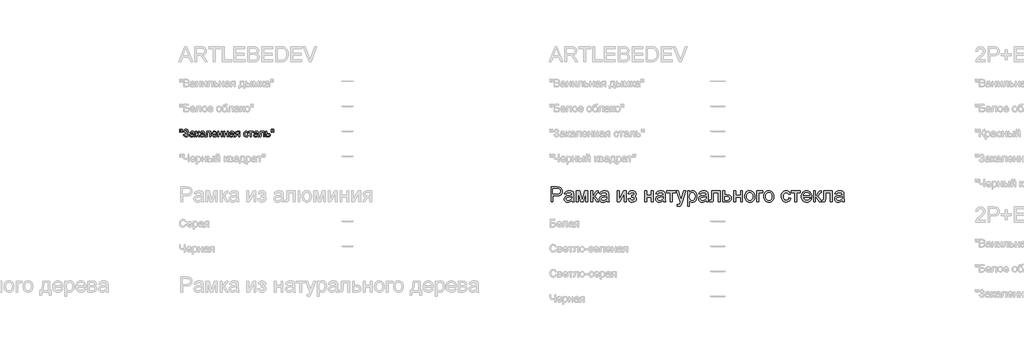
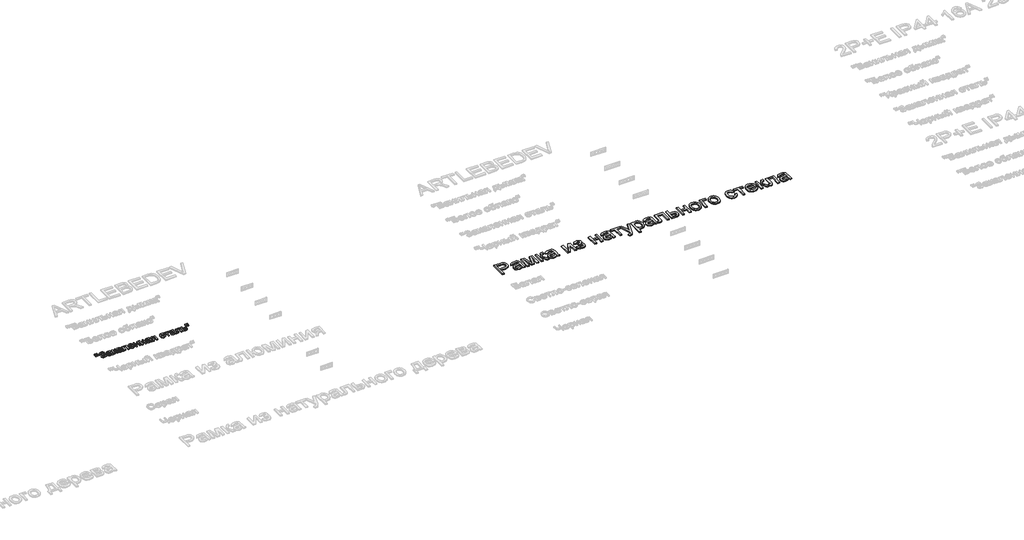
# One storey, part 127 of 168: 2 proxies.
"""IFC4 building model written with IfcOpenShell, lengths in millimetres."""

from ifc_helpers import new_model, si_unit, origin, origin_with_axes, place, context, project, spatial, polyline, outline, extrude, element, save

model = new_model("IFC4")

# Units and contexts
model_context = context("Model", 3, world=origin())
ifc_project = project(units=[si_unit("LENGTHUNIT", "METRE", prefix="MILLI")], contexts=[model_context])

# Site, building, storey
site = spatial("IfcSite", under=ifc_project)
building = spatial("IfcBuilding", under=site)
storey = spatial("IfcBuildingStorey", under=building, Name="Этаж 01", Elevation=0.0)

# Proxies
placement = place(None, origin())
element("IfcBuildingElementProxy", 1, Name="300 мм Arial 2", ObjectType="300 мм Arial 2", at=placement, inside=storey, context=model_context, shape_type="SweptSolid", body=[
    extrude(outline(polyline([(55099.0945017, -8848.4056816), (55099.0945017, -8547.0367511), (55210.7834754, -8547.0367511), (55255.8122316, -8549.9062307), (55275.8893915, -8555.2681108), (55292.4164901, -8563.9961111), (55305.7246213, -8576.4857048), (55316.1448788, -8593.1323651), (55322.8771193, -8612.7680666), (55325.1211995, -8634.224784), (55323.6059855, -8652.7246498), (55319.0603436, -8669.7437906), (55311.4842738, -8685.2822064), (55300.877776, -8699.3398971), (55286.3165468, -8710.9925593), (55266.8762826, -8719.3158895), (55242.5569835, -8724.3098875), (55213.3586494, -8725.9745536), (55136.765618, -8725.9745536), (55136.765618, -8848.4056816), (55099.0945017, -8848.4056816)]), holes=[polyline([(55136.765618, -8688.3034373), (55215.5659413, -8688.3034373), (55248.9696265, -8684.8453465), (55271.0425462, -8674.4710742), (55283.3481989, -8657.824414), (55287.4500832, -8635.5491592), (55285.0312591, -8618.6265874), (55277.7747867, -8604.352766), (55266.581977, -8593.6106117), (55252.3541408, -8587.2830414), (55214.6830245, -8584.7078674), (55136.765618, -8584.7078674), (55136.765618, -8688.3034373)])]), origin_with_axes(), (0.0, 0.0, 1.0), 20.0),
    extrude(outline(polyline([(55513.476781, -8820.1523443), (55495.4781544, -8835.584994), (55476.9460989, -8845.6833548), (55457.4575502, -8851.256767), (55436.589444, -8853.1145711), (55405.1079423, -8848.6448049), (55381.8853914, -8835.2355061), (55367.5655847, -8814.8732377), (55362.7923158, -8789.5445623), (55364.5949376, -8773.9279716), (55370.0028029, -8759.7461207), (55378.3445271, -8747.6060149), (55388.9487257, -8738.1146594), (55415.3258647, -8725.7538244), (55447.9202095, -8720.0884417), (55486.4374544, -8714.1287533), (55513.2560518, -8707.1389954), (55513.476781, -8698.7512859), (55510.883213, -8681.9390788), (55503.1025088, -8670.9394071), (55485.7016904, -8662.7724268), (55461.4582669, -8660.0501), (55439.0174652, -8661.8619189), (55423.3456922, -8667.2973753), (55412.6587202, -8677.3497509), (55405.1723216, -8693.0123268), (55367.5012053, -8688.3034373), (55374.0403078, -8667.7020455), (55383.7983777, -8651.5152378), (55397.685923, -8639.1360086), (55416.6134517, -8629.9573528), (55439.7624262, -8624.273576), (55466.3143092, -8622.3789837), (55491.7809404, -8624.0528468), (55511.9684648, -8629.074436), (55527.1895824, -8636.625214), (55537.7569927, -8645.8866432), (55544.7651447, -8657.3369703), (55549.3084874, -8671.4544419), (55551.1478973, -8704.4166687), (55551.1478973, -8751.2848348), (55553.0608837, -8816.7310418), (55560.5656764, -8848.4056816), (55522.8945601, -8848.4056816), (55513.476781, -8820.1523443)]), holes=[polyline([(55513.476781, -8744.8101117), (55452.7026754, -8756.3616064), (55420.2922716, -8762.4684475), (55405.61378, -8772.4012614), (55400.4634321, -8786.895812), (55403.2685323, -8798.0978187), (55411.683833, -8807.2764745), (55425.525393, -8813.4017097), (55444.6092715, -8815.4434548), (55464.8427813, -8813.1901776), (55482.7218462, -8806.4303459), (55497.2163968, -8796.4699409), (55507.2963635, -8784.6149436), (55511.7661297, -8772.4012614), (55513.2560518, -8755.4786896), (55513.476781, -8744.8101117)])]), origin_with_axes(), (0.0, 0.0, 1.0), 20.0),
    extrude(outline(polyline([(55602.9456823, -8627.0878733), (55667.7664898, -8627.0878733), (55717.7248647, -8804.2598421), (55771.5827888, -8627.0878733), (55833.6812696, -8627.0878733), (55833.6812696, -8848.4056816), (55796.0101533, -8848.4056816), (55796.0101533, -8670.2036431), (55741.8579236, -8848.4056816), (55692.4145835, -8848.4056816), (55640.6167986, -8661.6687808), (55640.6167986, -8848.4056816), (55602.9456823, -8848.4056816), (55602.9456823, -8627.0878733)])), origin_with_axes(), (0.0, 0.0, 1.0), 20.0),
    extrude(outline(polyline([(55890.1879441, -8627.0878733), (55927.8590604, -8627.0878733), (55927.8590604, -8721.265664), (55943.1813455, -8719.5734069), (55953.0957653, -8714.4966353), (55961.8697508, -8701.2528835), (55973.7707334, -8675.0596854), (55990.9508226, -8641.0306009), (56006.1075608, -8629.9573528), (56033.6619222, -8627.0878733), (56040.8724093, -8627.0878733), (56040.8724093, -8664.9797188), (56030.7188662, -8664.7589896), (56012.3247665, -8668.7321151), (55999.3753203, -8693.5273616), (55984.1817939, -8720.345959), (55962.8814263, -8733.4793463), (55974.8191971, -8738.7814455), (55986.6466032, -8748.1394438), (56009.9703217, -8779.0231373), (56050.2901884, -8848.4056816), (56007.4687241, -8848.4056816), (55967.9581979, -8780.4946653), (55948.0925701, -8751.7630814), (55938.8035497, -8746.5483542), (55927.8590604, -8744.8101117), (55927.8590604, -8848.4056816), (55890.1879441, -8848.4056816), (55890.1879441, -8627.0878733)])), origin_with_axes(), (0.0, 0.0, 1.0), 20.0),
    extrude(outline(polyline([(56215.1013222, -8820.1523443), (56197.1026956, -8835.584994), (56178.5706401, -8845.6833548), (56159.0820914, -8851.256767), (56138.2139852, -8853.1145711), (56106.7324835, -8848.6448049), (56083.5099326, -8835.2355061), (56069.1901259, -8814.8732377), (56064.416857, -8789.5445623), (56066.2194788, -8773.9279716), (56071.6273441, -8759.7461207), (56079.9690683, -8747.6060149), (56090.5732669, -8738.1146594), (56116.9504059, -8725.7538244), (56149.5447507, -8720.0884417), (56188.0619956, -8714.1287533), (56214.880593, -8707.1389954), (56215.1013222, -8698.7512859), (56212.5077542, -8681.9390788), (56204.72705, -8670.9394071), (56187.3262316, -8662.7724268), (56163.0828081, -8660.0501), (56140.6420064, -8661.8619189), (56124.9702334, -8667.2973753), (56114.2832614, -8677.3497509), (56106.7968628, -8693.0123268), (56069.1257465, -8688.3034373), (56075.664849, -8667.7020455), (56085.4229189, -8651.5152378), (56099.3104642, -8639.1360086), (56118.2379929, -8629.9573528), (56141.3869674, -8624.273576), (56167.9388504, -8622.3789837), (56193.4054816, -8624.0528468), (56213.593006, -8629.074436), (56228.8141236, -8636.625214), (56239.3815339, -8645.8866432), (56246.3896859, -8657.3369703), (56250.9330286, -8671.4544419), (56252.7724385, -8704.4166687), (56252.7724385, -8751.2848348), (56254.6854249, -8816.7310418), (56262.1902176, -8848.4056816), (56224.5191013, -8848.4056816), (56215.1013222, -8820.1523443)]), holes=[polyline([(56215.1013222, -8744.8101117), (56154.3272166, -8756.3616064), (56121.9168128, -8762.4684475), (56107.2383212, -8772.4012614), (56102.0879733, -8786.895812), (56104.8930735, -8798.0978187), (56113.3083742, -8807.2764745), (56127.1499342, -8813.4017097), (56146.2338127, -8815.4434548), (56166.4673225, -8813.1901776), (56184.3463874, -8806.4303459), (56198.840938, -8796.4699409), (56208.9209047, -8784.6149436), (56213.3906709, -8772.4012614), (56214.880593, -8755.4786896), (56215.1013222, -8744.8101117)])]), origin_with_axes(), (0.0, 0.0, 1.0), 20.0),
    extrude(outline(polyline([(56422.2924619, -8627.0878733), (56459.9635782, -8627.0878733), (56459.9635782, -8795.8721327), (56552.5226882, -8627.0878733), (56601.2302644, -8627.0878733), (56601.2302644, -8848.4056816), (56563.5591481, -8848.4056816), (56563.5591481, -8680.6514918), (56471.5886493, -8848.4056816), (56422.2924619, -8848.4056816), (56422.2924619, -8627.0878733)])), origin_with_axes(), (0.0, 0.0, 1.0), 20.0),
    extrude(outline(polyline([(56709.5347237, -8749.5190013), (56709.5347237, -8711.847885), (56739.259589, -8710.376357), (56754.2691744, -8702.5404705), (56759.5666751, -8695.1920276), (56761.3325087, -8686.1697217), (56758.9688668, -8675.4551586), (56751.8779414, -8667.1502225), (56741.0530137, -8661.8251307), (56727.4873651, -8660.0501), (56713.7745637, -8661.8159336), (56702.2874484, -8667.1134343), (56693.0260192, -8675.9426022), (56685.9902761, -8688.3034373), (56643.6102702, -8683.5945477), (56654.8490652, -8656.8127385), (56671.9371838, -8637.6828747), (56694.8746262, -8626.2049565), (56723.6613924, -8622.3789837), (56755.1520911, -8627.041888), (56778.9908444, -8641.0306009), (56794.0004298, -8661.4940369), (56799.003625, -8685.5811105), (56797.2239958, -8697.9419455), (56791.8851084, -8708.9784054), (56782.9869626, -8718.6904901), (56770.5295585, -8727.0781996), (56785.0700944, -8737.5444423), (56795.4351696, -8750.5490709), (56801.6431783, -8766.1288733), (56803.7125145, -8784.320638), (56798.460999, -8812.0497434), (56782.7064526, -8834.0214956), (56757.515733, -8848.3413022), (56723.955698, -8853.1145711), (56691.1314269, -8848.6999872), (56666.0142837, -8835.4562353), (56648.6042683, -8813.3833156), (56638.9013807, -8782.481228), (56681.2813865, -8777.7723385), (56687.6273509, -8793.7016289), (56698.2775347, -8805.5842173), (56711.9995331, -8812.9786454), (56727.5609415, -8815.4434548), (56742.7176797, -8813.079813), (56755.0785147, -8805.9888875), (56763.3006773, -8795.2191421), (56766.0413982, -8781.8190404), (56764.339944, -8771.2056449), (56759.2355813, -8762.0269891), (56744.7410307, -8751.4319876), (56716.8923636, -8749.2982721), (56709.5347237, -8749.5190013)])), origin_with_axes(), (0.0, 0.0, 1.0), 20.0),
    extrude(outline(polyline([(56968.5236483, -8627.0878733), (57006.1947647, -8627.0878733), (57006.1947647, -8711.847885), (57105.081445, -8711.847885), (57105.081445, -8627.0878733), (57142.7525613, -8627.0878733), (57142.7525613, -8848.4056816), (57105.081445, -8848.4056816), (57105.081445, -8749.5190013), (57006.1947647, -8749.5190013), (57006.1947647, -8848.4056816), (56968.5236483, -8848.4056816), (56968.5236483, -8627.0878733)])), origin_with_axes(), (0.0, 0.0, 1.0), 20.0),
    extrude(outline(polyline([(57340.5259219, -8820.1523443), (57322.5272953, -8835.584994), (57303.9952397, -8845.6833548), (57284.5066911, -8851.256767), (57263.6385849, -8853.1145711), (57232.1570831, -8848.6448049), (57208.9345322, -8835.2355061), (57194.6147255, -8814.8732377), (57189.8414566, -8789.5445623), (57191.6440784, -8773.9279716), (57197.0519438, -8759.7461207), (57205.393668, -8747.6060149), (57215.9978665, -8738.1146594), (57242.3750056, -8725.7538244), (57274.9693503, -8720.0884417), (57313.4865952, -8714.1287533), (57340.3051927, -8707.1389954), (57340.5259219, -8698.7512859), (57337.9323538, -8681.9390788), (57330.1516496, -8670.9394071), (57312.7508312, -8662.7724268), (57288.5074078, -8660.0501), (57266.066606, -8661.8619189), (57250.3948331, -8667.2973753), (57239.7078611, -8677.3497509), (57232.2214625, -8693.0123268), (57194.5503462, -8688.3034373), (57201.0894486, -8667.7020455), (57210.8475186, -8651.5152378), (57224.7350639, -8639.1360086), (57243.6625925, -8629.9573528), (57266.8115671, -8624.273576), (57293.3634501, -8622.3789837), (57318.8300812, -8624.0528468), (57339.0176057, -8629.074436), (57354.2387232, -8636.625214), (57364.8061336, -8645.8866432), (57371.8142856, -8657.3369703), (57376.3576282, -8671.4544419), (57378.1970382, -8704.4166687), (57378.1970382, -8751.2848348), (57380.1100246, -8816.7310418), (57387.6148173, -8848.4056816), (57349.9437009, -8848.4056816), (57340.5259219, -8820.1523443)]), holes=[polyline([(57340.5259219, -8744.8101117), (57279.7518163, -8756.3616064), (57247.3414125, -8762.4684475), (57232.6629209, -8772.4012614), (57227.512573, -8786.895812), (57230.3176732, -8798.0978187), (57238.7329738, -8807.2764745), (57252.5745339, -8813.4017097), (57271.6584124, -8815.4434548), (57291.8919221, -8813.1901776), (57309.7709871, -8806.4303459), (57324.2655377, -8796.4699409), (57334.3455044, -8784.6149436), (57338.8152706, -8772.4012614), (57340.3051927, -8755.4786896), (57340.5259219, -8744.8101117)])]), origin_with_axes(), (0.0, 0.0, 1.0), 20.0),
    extrude(outline(polyline([(57411.1592649, -8627.0878733), (57590.0970674, -8627.0878733), (57590.0970674, -8664.7589896), (57519.4637243, -8664.7589896), (57519.4637243, -8848.4056816), (57481.792608, -8848.4056816), (57481.792608, -8664.7589896), (57411.1592649, -8664.7589896), (57411.1592649, -8627.0878733)])), origin_with_axes(), (0.0, 0.0, 1.0), 20.0),
    extrude(outline(polyline([(57623.0592942, -8933.1656933), (57618.3504046, -8896.8925285), (57637.4802684, -8900.2034665), (57655.3593333, -8896.0463999), (57666.3222168, -8884.4581171), (57676.6229127, -8856.7198147), (57679.5659686, -8847.5963412), (57599.5148465, -8627.0878733), (57639.246102, -8627.0878733), (57681.6996842, -8749.9604597), (57696.4885404, -8799.1094942), (57711.2773966, -8755.6994188), (57754.9082012, -8627.0878733), (57794.3451511, -8627.0878733), (57717.3106613, -8853.7031823), (57697.2978808, -8902.8522169), (57687.0523672, -8918.5423839), (57675.4456903, -8929.4132969), (57661.9628152, -8935.7592613), (57646.0887071, -8937.8745828), (57623.0592942, -8933.1656933)])), origin_with_axes(), (0.0, 0.0, 1.0), 20.0),
    extrude(outline(polyline([(57825.5415443, -8933.1656933), (57825.5415443, -8627.0878733), (57863.2126606, -8627.0878733), (57863.2126606, -8664.0232256), (57875.4999193, -8645.8038698), (57889.2587059, -8632.7900442), (57905.2983609, -8624.9817488), (57924.4282246, -8622.3789837), (57949.9040528, -8626.0210155), (57972.1793076, -8636.9471107), (57990.31589, -8654.4950819), (58003.3757008, -8678.0027414), (58011.2667696, -8705.7594379), (58013.8971258, -8736.0545202), (58010.9264787, -8768.271786), (58002.0145374, -8797.0861432), (57987.4464104, -8821.0352611), (57967.5072063, -8838.6568087), (57944.2846553, -8849.5001305), (57919.8664879, -8853.1145711), (57902.548443, -8850.695747), (57887.0882021, -8843.4392746), (57873.8536473, -8832.4855882), (57863.2126606, -8818.975122), (57863.2126606, -8933.1656933), (57825.5415443, -8933.1656933)]), holes=[polyline([(57863.2126606, -8739.512611), (57867.2869537, -8773.2841782), (57879.509833, -8796.9022022), (57897.5452478, -8810.8081417), (57919.0571475, -8815.4434548), (57940.918535, -8810.6425948), (57959.4138024, -8796.2400147), (57972.0229577, -8771.7574679), (57976.2260095, -8736.7167078), (57972.1241253, -8703.1290817), (57959.8184726, -8679.1799638), (57941.8106489, -8664.832566), (57920.6022519, -8660.0501), (57899.3110814, -8665.1360686), (57880.613479, -8680.3939744), (57867.5628652, -8705.3455707), (57863.2126606, -8739.512611)])]), origin_with_axes(), (0.0, 0.0, 1.0), 20.0),
    extrude(outline(polyline([(58197.5438178, -8820.1523443), (58179.5451912, -8835.584994), (58161.0131357, -8845.6833548), (58141.524587, -8851.256767), (58120.6564808, -8853.1145711), (58089.1749791, -8848.6448049), (58065.9524282, -8835.2355061), (58051.6326215, -8814.8732377), (58046.8593526, -8789.5445623), (58048.6619744, -8773.9279716), (58054.0698397, -8759.7461207), (58062.411564, -8747.6060149), (58073.0157625, -8738.1146594), (58099.3929015, -8725.7538244), (58131.9872463, -8720.0884417), (58170.5044912, -8714.1287533), (58197.3230886, -8707.1389954), (58197.5438178, -8698.7512859), (58194.9502498, -8681.9390788), (58187.1695456, -8670.9394071), (58169.7687272, -8662.7724268), (58145.5253037, -8660.0501), (58123.084502, -8661.8619189), (58107.412729, -8667.2973753), (58096.7257571, -8677.3497509), (58089.2393585, -8693.0123268), (58051.5682421, -8688.3034373), (58058.1073446, -8667.7020455), (58067.8654145, -8651.5152378), (58081.7529599, -8639.1360086), (58100.6804885, -8629.9573528), (58123.8294631, -8624.273576), (58150.3813461, -8622.3789837), (58175.8479772, -8624.0528468), (58196.0355017, -8629.074436), (58211.2566192, -8636.625214), (58221.8240295, -8645.8866432), (58228.8321815, -8657.3369703), (58233.3755242, -8671.4544419), (58235.2149341, -8704.4166687), (58235.2149341, -8751.2848348), (58237.1279205, -8816.7310418), (58244.6327132, -8848.4056816), (58206.9615969, -8848.4056816), (58197.5438178, -8820.1523443)]), holes=[polyline([(58197.5438178, -8744.8101117), (58136.7697122, -8756.3616064), (58104.3593085, -8762.4684475), (58089.6808168, -8772.4012614), (58084.5304689, -8786.895812), (58087.3355691, -8798.0978187), (58095.7508698, -8807.2764745), (58109.5924298, -8813.4017097), (58128.6763083, -8815.4434548), (58148.9098181, -8813.1901776), (58166.788883, -8806.4303459), (58181.2834336, -8796.4699409), (58191.3634003, -8784.6149436), (58195.8331666, -8772.4012614), (58197.3230886, -8755.4786896), (58197.5438178, -8744.8101117)])]), origin_with_axes(), (0.0, 0.0, 1.0), 20.0),
    extrude(outline(polyline([(58305.8482772, -8627.0878733), (58475.3683006, -8627.0878733), (58475.3683006, -8848.1849524), (58437.6971843, -8848.1849524), (58437.6971843, -8664.7589896), (58343.5193935, -8664.7589896), (58343.5193935, -8770.3411222), (58340.9810078, -8819.0486984), (58336.226133, -8830.0759612), (58327.0382801, -8839.6133019), (58313.0955525, -8846.2075866), (58294.0760534, -8848.4056816), (58263.4682714, -8846.4926952), (58263.4682714, -8810.7345653), (58280.3172667, -8810.7345653), (58297.3502031, -8808.4169087), (58304.15602, -8801.0592688), (58305.8482772, -8768.2074066), (58305.8482772, -8627.0878733)])), origin_with_axes(), (0.0, 0.0, 1.0), 20.0),
    extrude(outline(polyline([(58531.8749751, -8627.0878733), (58569.5460914, -8627.0878733), (58569.5460914, -8707.1389954), (58612.9561668, -8707.1389954), (58650.5904949, -8711.857082), (58665.738036, -8717.7546902), (58678.4391619, -8726.0113418), (58688.4823404, -8736.3419281), (58695.6560393, -8748.4613405), (58701.3949984, -8778.0666441), (58696.5113649, -8805.0231973), (58681.8604645, -8827.7675016), (58670.6285673, -8836.7967054), (58656.4674098, -8843.2461366), (58619.3573135, -8848.4056816), (58531.8749751, -8848.4056816), (58531.8749751, -8627.0878733)]), holes=[polyline([(58569.5460914, -8810.7345653), (58604.7156101, -8810.7345653), (58632.0032571, -8808.7571995), (58650.1490365, -8802.8251024), (58660.3301707, -8792.6991504), (58663.7238821, -8778.1402205), (58661.2130875, -8765.8345678), (58653.6807037, -8754.9636548), (58637.5398811, -8747.3484975), (58609.2037704, -8744.8101117), (58569.5460914, -8744.8101117), (58569.5460914, -8810.7345653)])]), origin_with_axes(), (0.0, 0.0, 1.0), 20.0),
    extrude(outline(polyline([(58748.4838938, -8627.0878733), (58786.1550101, -8627.0878733), (58786.1550101, -8711.847885), (58885.0416904, -8711.847885), (58885.0416904, -8627.0878733), (58922.7128067, -8627.0878733), (58922.7128067, -8848.4056816), (58885.0416904, -8848.4056816), (58885.0416904, -8749.5190013), (58786.1550101, -8749.5190013), (58786.1550101, -8848.4056816), (58748.4838938, -8848.4056816), (58748.4838938, -8627.0878733)])), origin_with_axes(), (0.0, 0.0, 1.0), 20.0),
    extrude(outline(polyline([(58969.8017021, -8737.7467774), (58971.8388487, -8709.0841715), (58977.9502883, -8684.385494), (58988.136021, -8663.6507451), (59002.3960469, -8646.8799246), (59016.7526417, -8636.160763), (59032.5991587, -8628.504219), (59049.9355977, -8623.9102925), (59068.7619588, -8622.3789837), (59089.5449923, -8624.2436856), (59108.3368644, -8629.8377912), (59125.1375753, -8639.1613005), (59139.9471249, -8652.2142135), (59152.0343477, -8668.5550719), (59160.6680783, -8687.7424172), (59165.8483166, -8709.7762495), (59167.5750627, -8734.6565687), (59164.5216422, -8772.7139611), (59155.3613805, -8801.6846682), (59140.3609921, -8823.3805088), (59119.7871915, -8839.6133019), (59095.35063, -8849.7392538), (59068.7619588, -8853.1145711), (59047.6754227, -8851.256767), (59028.7088066, -8845.6833548), (59011.8621105, -8836.3943344), (58997.1353344, -8823.3897059), (58985.1768702, -8806.8901984), (58976.6351102, -8787.1165412), (58971.5100541, -8764.0687342), (58969.8017021, -8737.7467774)]), holes=[polyline([(59007.4728184, -8737.673201), (59011.8322201, -8771.7666649), (59024.910425, -8796.0560737), (59044.5921117, -8810.5966095), (59068.7619588, -8815.4434548), (59092.8214413, -8810.5690184), (59112.4663398, -8795.9457091), (59125.5445448, -8771.3344036), (59129.9039464, -8736.4959786), (59125.5169536, -8703.3957961), (59112.3559752, -8679.4374812), (59092.6834855, -8664.8969453), (59068.7619588, -8660.0501), (59044.5921117, -8664.8785512), (59024.910425, -8679.3639048), (59011.8322201, -8703.5981312), (59007.4728184, -8737.673201)])]), origin_with_axes(), (0.0, 0.0, 1.0), 20.0),
    extrude(outline(polyline([(59209.9550686, -8627.0878733), (59332.3861966, -8627.0878733), (59332.3861966, -8664.7589896), (59247.6261849, -8664.7589896), (59247.6261849, -8848.4056816), (59209.9550686, -8848.4056816), (59209.9550686, -8627.0878733)])), origin_with_axes(), (0.0, 0.0, 1.0), 20.0),
    extrude(outline(polyline([(59351.2217547, -8737.7467774), (59353.2589013, -8709.0841715), (59359.3703409, -8684.385494), (59369.5560736, -8663.6507451), (59383.8160995, -8646.8799246), (59398.1726943, -8636.160763), (59414.0192113, -8628.504219), (59431.3556503, -8623.9102925), (59450.1820114, -8622.3789837), (59470.9650449, -8624.2436856), (59489.756917, -8629.8377912), (59506.5576279, -8639.1613005), (59521.3671775, -8652.2142135), (59533.4544003, -8668.5550719), (59542.0881309, -8687.7424172), (59547.2683692, -8709.7762495), (59548.9951153, -8734.6565687), (59545.9416948, -8772.7139611), (59536.7814331, -8801.6846682), (59521.7810447, -8823.3805088), (59501.2072441, -8839.6133019), (59476.7706826, -8849.7392538), (59450.1820114, -8853.1145711), (59429.0954753, -8851.256767), (59410.1288592, -8845.6833548), (59393.2821631, -8836.3943344), (59378.555387, -8823.3897059), (59366.5969228, -8806.8901984), (59358.0551628, -8787.1165412), (59352.9301067, -8764.0687342), (59351.2217547, -8737.7467774)]), holes=[polyline([(59388.892871, -8737.673201), (59393.2522727, -8771.7666649), (59406.3304776, -8796.0560737), (59426.0121643, -8810.5966095), (59450.1820114, -8815.4434548), (59474.2414939, -8810.5690184), (59493.8863924, -8795.9457091), (59506.9645974, -8771.3344036), (59511.323999, -8736.4959786), (59506.9370062, -8703.3957961), (59493.7760278, -8679.4374812), (59474.1035381, -8664.8969453), (59450.1820114, -8660.0501), (59426.0121643, -8664.8785512), (59406.3304776, -8679.3639048), (59393.2522727, -8703.5981312), (59388.892871, -8737.673201)])]), origin_with_axes(), (0.0, 0.0, 1.0), 20.0),
    extrude(outline(polyline([(59850.3640458, -8768.3545594), (59888.0351621, -8773.063449), (59877.5321311, -8806.5683017), (59857.7952621, -8831.88778), (59830.682359, -8847.8078733), (59798.0512261, -8853.1145711), (59776.9233032, -8851.2636648), (59757.9796797, -8845.710946), (59741.2203556, -8836.4564145), (59726.6453308, -8823.5000705), (59714.8478151, -8807.0856357), (59706.4210181, -8787.456832), (59701.3649399, -8764.6136594), (59699.6795805, -8738.5561178), (59702.5582572, -8705.032871), (59711.194287, -8675.9793904), (59725.7256258, -8652.5177162), (59746.2902293, -8635.7698884), (59770.8923378, -8625.7267099), (59797.5361913, -8622.3789837), (59829.3671809, -8626.9775087), (59854.8154179, -8640.7730835), (59873.0715619, -8663.0299442), (59883.3262725, -8693.0123268), (59845.6551562, -8697.7212163), (59838.8217482, -8681.2860882), (59828.1807615, -8669.5046673), (59814.3208073, -8662.4137419), (59797.8304969, -8660.0501), (59773.4859058, -8664.7038073), (59754.162904, -8678.664929), (59741.5537486, -8702.6876233), (59737.3506968, -8737.5260482), (59741.4617781, -8772.8335227), (59753.795022, -8796.9389904), (59772.7685359, -8810.8173387), (59796.8004273, -8815.4434548), (59816.3073701, -8812.5555811), (59832.3010398, -8803.8919602), (59843.9353079, -8789.2318626), (59850.3640458, -8768.3545594)])), origin_with_axes(), (0.0, 0.0, 1.0), 20.0),
    extrude(outline(polyline([(59902.1618307, -8627.0878733), (60081.0996331, -8627.0878733), (60081.0996331, -8664.7589896), (60010.4662901, -8664.7589896), (60010.4662901, -8848.4056816), (59972.7951738, -8848.4056816), (59972.7951738, -8664.7589896), (59902.1618307, -8664.7589896), (59902.1618307, -8627.0878733)])), origin_with_axes(), (0.0, 0.0, 1.0), 20.0),
    extrude(outline(polyline([(60269.0137563, -8782.481228), (60305.9491086, -8787.1901176), (60292.6409774, -8815.0203905), (60271.4049892, -8835.8241173), (60242.7193907, -8848.7919577), (60207.0624283, -8853.1145711), (60183.688126, -8851.2498692), (60162.8614066, -8845.6557637), (60144.5822699, -8836.3322543), (60128.8507161, -8823.2793413), (60116.200174, -8806.860308), (60107.1640725, -8787.4384379), (60101.7424116, -8765.013731), (60099.9351913, -8739.5861874), (60101.7608057, -8713.2964203), (60107.2376489, -8690.1244531), (60116.3657209, -8670.0702859), (60129.1450217, -8653.1339185), (60144.8351888, -8639.6786346), (60162.6958597, -8630.0677174), (60182.7270343, -8624.3011672), (60204.9287127, -8622.3789837), (60226.4153205, -8624.2965686), (60245.8463876, -8630.0493233), (60263.2219141, -8639.6372478), (60278.5419, -8653.0603421), (60291.0475885, -8669.9599213), (60299.9802232, -8689.9773003), (60305.339804, -8713.1124793), (60307.126331, -8739.3654582), (60306.9056018, -8749.5190013), (60137.6063076, -8749.5190013), (60144.127016, -8777.7171562), (60159.2745571, -8798.4473066), (60181.1359447, -8811.1944178), (60207.7981923, -8815.4434548), (60227.847761, -8813.4752861), (60244.7335446, -8807.5707801), (60258.455543, -8797.3620547), (60269.0137563, -8782.481228)]), holes=[polyline([(60137.6063076, -8711.847885), (60269.4552147, -8711.847885), (60264.360049, -8691.945469), (60254.3720529, -8677.7084358), (60232.4094978, -8664.464684), (60204.7815599, -8660.0501), (60179.3885052, -8663.5725701), (60158.3916403, -8674.1399805), (60143.7959222, -8690.6118968), (60137.6063076, -8711.847885)])]), origin_with_axes(), (0.0, 0.0, 1.0), 20.0),
    extrude(outline(polyline([(60547.2796974, -8627.0878733), (60716.7997208, -8627.0878733), (60716.7997208, -8848.1849524), (60679.1286045, -8848.1849524), (60679.1286045, -8664.7589896), (60584.9508137, -8664.7589896), (60584.9508137, -8770.3411222), (60582.412428, -8819.0486984), (60577.6575532, -8830.0759612), (60568.4697004, -8839.6133019), (60554.5269727, -8846.2075866), (60535.5074736, -8848.4056816), (60504.8996916, -8846.4926952), (60504.8996916, -8810.7345653), (60521.748687, -8810.7345653), (60538.7816233, -8808.4169087), (60545.5874403, -8801.0592688), (60547.2796974, -8768.2074066), (60547.2796974, -8627.0878733)])), origin_with_axes(), (0.0, 0.0, 1.0), 20.0),
    extrude(outline(polyline([(60344.7974473, -8627.0878733), (60382.4685636, -8627.0878733), (60382.4685636, -8721.265664), (60397.7908487, -8719.5734069), (60407.7052685, -8714.4966353), (60416.479254, -8701.2528835), (60428.3802366, -8675.0596854), (60445.5603258, -8641.0306009), (60460.717064, -8629.9573528), (60488.2714254, -8627.0878733), (60495.4819125, -8627.0878733), (60495.4819125, -8664.9797188), (60485.3283694, -8664.7589896), (60466.9342697, -8668.7321151), (60453.9848235, -8693.5273616), (60438.7912971, -8720.345959), (60417.4909295, -8733.4793463), (60429.4287003, -8738.7814455), (60441.2561064, -8748.1394438), (60464.5798249, -8779.0231373), (60504.8996916, -8848.4056816), (60462.0782273, -8848.4056816), (60422.5677011, -8780.4946653), (60402.7020733, -8751.7630814), (60393.4130529, -8746.5483542), (60382.4685636, -8744.8101117), (60382.4685636, -8848.4056816), (60344.7974473, -8848.4056816), (60344.7974473, -8627.0878733)])), origin_with_axes(), (0.0, 0.0, 1.0), 20.0),
    extrude(outline(polyline([(60914.5730814, -8820.1523443), (60896.5744548, -8835.584994), (60878.0423993, -8845.6833548), (60858.5538506, -8851.256767), (60837.6857444, -8853.1145711), (60806.2042427, -8848.6448049), (60782.9816917, -8835.2355061), (60768.6618851, -8814.8732377), (60763.8886162, -8789.5445623), (60765.691238, -8773.9279716), (60771.0991033, -8759.7461207), (60779.4408275, -8747.6060149), (60790.045026, -8738.1146594), (60816.4221651, -8725.7538244), (60849.0165099, -8720.0884417), (60887.5337548, -8714.1287533), (60914.3523522, -8707.1389954), (60914.5730814, -8698.7512859), (60911.9795133, -8681.9390788), (60904.1988091, -8670.9394071), (60886.7979908, -8662.7724268), (60862.5545673, -8660.0501), (60840.1137656, -8661.8619189), (60824.4419926, -8667.2973753), (60813.7550206, -8677.3497509), (60806.268622, -8693.0123268), (60768.5975057, -8688.3034373), (60775.1366082, -8667.7020455), (60784.8946781, -8651.5152378), (60798.7822234, -8639.1360086), (60817.7097521, -8629.9573528), (60840.8587266, -8624.273576), (60867.4106096, -8622.3789837), (60892.8772407, -8624.0528468), (60913.0647652, -8629.074436), (60928.2858828, -8636.625214), (60938.8532931, -8645.8866432), (60945.8614451, -8657.3369703), (60950.4047877, -8671.4544419), (60952.2441977, -8704.4166687), (60952.2441977, -8751.2848348), (60954.1571841, -8816.7310418), (60961.6619768, -8848.4056816), (60923.9908605, -8848.4056816), (60914.5730814, -8820.1523443)]), holes=[polyline([(60914.5730814, -8744.8101117), (60853.7989758, -8756.3616064), (60821.388572, -8762.4684475), (60806.7100804, -8772.4012614), (60801.5597325, -8786.895812), (60804.3648327, -8798.0978187), (60812.7801333, -8807.2764745), (60826.6216934, -8813.4017097), (60845.7055719, -8815.4434548), (60865.9390817, -8813.1901776), (60883.8181466, -8806.4303459), (60898.3126972, -8796.4699409), (60908.3926639, -8784.6149436), (60912.8624301, -8772.4012614), (60914.3523522, -8755.4786896), (60914.5730814, -8744.8101117)])]), origin_with_axes(), (0.0, 0.0, 1.0), 20.0),
])
element("IfcBuildingElementProxy", 2, Name="150", ObjectType="150", at=placement, inside=storey, context=model_context, shape_type="SweptSolid", body=[
    extrude(outline(polyline([(47680.1485789, -7451.873446), (47675.550054, -7422.7739802), (47675.550054, -7397.7212163), (47694.3856121, -7397.7212163), (47694.3856121, -7422.7739802), (47690.2653338, -7451.873446), (47680.1485789, -7451.873446)])), origin_with_axes(), (0.0, 0.0, 1.0), 20.0),
    extrude(outline(polyline([(47717.7093306, -7451.873446), (47713.2211703, -7422.7739802), (47713.2211703, -7397.7212163), (47732.0567284, -7397.7212163), (47732.0567284, -7422.7739802), (47727.6421445, -7451.873446), (47717.7093306, -7451.873446)])), origin_with_axes(), (0.0, 0.0, 1.0), 20.0),
    extrude(outline(polyline([(47750.8922866, -7506.0256757), (47769.7278447, -7501.3167862), (47781.2977335, -7521.7158428), (47792.2284273, -7529.3723868), (47806.2217387, -7531.9245682), (47820.398991, -7530.0069833), (47831.2193202, -7524.2542286), (47838.0757209, -7515.7883442), (47840.3611878, -7505.7313701), (47837.8641888, -7495.1961495), (47830.3731916, -7487.0613589), (47818.5779752, -7481.8604272), (47803.1683181, -7480.1267833), (47793.2722924, -7480.1267833), (47793.2722924, -7461.2912251), (47814.591054, -7459.7645148), (47827.6324708, -7451.9654165), (47833.2978535, -7437.7099892), (47831.4124583, -7428.8394346), (47825.7562726, -7421.2104817), (47816.8811195, -7415.9543677), (47805.3388219, -7414.2023297), (47786.1169876, -7419.591801), (47775.117316, -7433.8840165), (47772.0822895, -7447.1645565), (47753.2467313, -7442.455667), (47759.0983543, -7421.8542752), (47769.7002536, -7407.1389954), (47785.0524291, -7398.3098275), (47805.1548809, -7395.3667716), (47824.5468605, -7398.4247907), (47839.4598769, -7407.5988479), (47848.965028, -7420.8655924), (47852.1334117, -7436.201673), (47847.2037929, -7454.8440931), (47832.4149367, -7468.7592296), (47842.8903765, -7473.5830823), (47851.5080123, -7481.7270699), (47857.2745625, -7492.4922168), (47859.196746, -7505.1795471), (47855.508729, -7523.0172254), (47844.444678, -7537.6819214), (47827.2921799, -7547.4905751), (47805.3388219, -7550.7601263), (47786.2365493, -7547.9642232), (47770.7947025, -7539.5765137), (47759.0132816, -7525.5969979), (47750.8922866, -7506.0256757)])), origin_with_axes(), (0.0, 0.0, 1.0), 20.0),
    extrude(outline(polyline([(47953.3745367, -7534.279013), (47935.1091957, -7547.0445182), (47914.9308682, -7550.7601263), (47899.1901174, -7548.5252432), (47887.5788419, -7541.8205939), (47880.4189386, -7531.6394596), (47878.0323041, -7518.975122), (47881.6375477, -7504.0759012), (47891.110509, -7493.2601705), (47904.2990786, -7487.079753), (47920.596251, -7484.2470616), (47953.2641721, -7477.7723385), (47953.3745367, -7473.5784838), (47952.0777527, -7465.1723802), (47948.1874006, -7459.6725443), (47939.4869914, -7455.5890542), (47927.3652797, -7454.2278908), (47908.3089923, -7457.8515285), (47899.222307, -7470.7090042), (47880.3867489, -7468.3545594), (47888.5353351, -7449.9604597), (47904.9428721, -7439.1815172), (47929.7933008, -7435.3923327), (47952.6203786, -7438.7400588), (47965.5146426, -7447.1461624), (47971.2903899, -7459.9300617), (47972.2100949, -7476.4111751), (47972.2100949, -7499.8452582), (47973.1665881, -7532.5683617), (47976.9189844, -7548.4056816), (47958.0834263, -7548.4056816), (47953.3745367, -7534.279013)]), holes=[polyline([(47953.3745367, -7496.6078966), (47922.9874839, -7502.383644), (47906.782282, -7505.4370645), (47899.4430362, -7510.4034715), (47896.8678623, -7517.6507468), (47902.4780627, -7527.841078), (47918.940782, -7531.9245682), (47937.9970693, -7527.4180137), (47950.284328, -7516.5103126), (47953.2641721, -7501.9421856), (47953.3745367, -7496.6078966)])]), origin_with_axes(), (0.0, 0.0, 1.0), 20.0),
    extrude(outline(polyline([(47998.1089873, -7437.7467774), (48016.9445455, -7437.7467774), (48016.9445455, -7484.8356728), (48029.5628979, -7481.4511584), (48039.900382, -7461.7326835), (48048.4904266, -7444.7181412), (48056.0687957, -7439.1815172), (48069.8459764, -7437.7467774), (48073.4512199, -7437.7467774), (48073.4512199, -7456.6927002), (48068.3744484, -7456.5823356), (48059.1773985, -7458.5688983), (48052.7026754, -7470.9665216), (48045.1059122, -7484.3758203), (48034.4557285, -7490.9425139), (48046.3383169, -7498.2725627), (48058.0001762, -7513.7144094), (48078.1601095, -7548.4056816), (48056.7493774, -7548.4056816), (48036.9941142, -7514.4501734), (48027.0613004, -7500.0843815), (48016.9445455, -7496.6078966), (48016.9445455, -7548.4056816), (47998.1089873, -7548.4056816), (47998.1089873, -7437.7467774)])), origin_with_axes(), (0.0, 0.0, 1.0), 20.0),
    extrude(outline(polyline([(48160.5656764, -7534.279013), (48142.3003353, -7547.0445182), (48122.1220079, -7550.7601263), (48106.381257, -7548.5252432), (48094.7699816, -7541.8205939), (48087.6100782, -7531.6394596), (48085.2234438, -7518.975122), (48088.8286873, -7504.0759012), (48098.3016487, -7493.2601705), (48111.4902183, -7487.079753), (48127.7873906, -7484.2470616), (48160.4553118, -7477.7723385), (48160.5656764, -7473.5784838), (48159.2688924, -7465.1723802), (48155.3785403, -7459.6725443), (48146.6781311, -7455.5890542), (48134.5564193, -7454.2278908), (48115.500132, -7457.8515285), (48106.4134467, -7470.7090042), (48087.5778886, -7468.3545594), (48095.7264748, -7449.9604597), (48112.1340117, -7439.1815172), (48136.9844405, -7435.3923327), (48159.8115183, -7438.7400588), (48172.7057822, -7447.1461624), (48178.4815296, -7459.9300617), (48179.4012346, -7476.4111751), (48179.4012346, -7499.8452582), (48180.3577277, -7532.5683617), (48184.1101241, -7548.4056816), (48165.2745659, -7548.4056816), (48160.5656764, -7534.279013)]), holes=[polyline([(48160.5656764, -7496.6078966), (48130.1786236, -7502.383644), (48113.9734217, -7505.4370645), (48106.6341759, -7510.4034715), (48104.0590019, -7517.6507468), (48109.6692024, -7527.841078), (48126.1319217, -7531.9245682), (48145.188209, -7527.4180137), (48157.4754676, -7516.5103126), (48160.4553118, -7501.9421856), (48160.5656764, -7496.6078966)])]), origin_with_axes(), (0.0, 0.0, 1.0), 20.0),
    extrude(outline(polyline([(48214.7179061, -7437.7467774), (48299.4779178, -7437.7467774), (48299.4779178, -7548.295317), (48280.6423596, -7548.295317), (48280.6423596, -7456.5823356), (48233.5534643, -7456.5823356), (48233.5534643, -7509.3734019), (48232.2842714, -7533.72719), (48225.3129076, -7544.0094917), (48208.8317942, -7548.4056816), (48193.5279032, -7547.4491884), (48193.5279032, -7529.5701234), (48201.9524009, -7529.5701234), (48210.4688691, -7528.4112951), (48213.8717775, -7524.7324752), (48214.7179061, -7508.3065441), (48214.7179061, -7437.7467774)])), origin_with_axes(), (0.0, 0.0, 1.0), 20.0),
    extrude(outline(polyline([(48405.2072032, -7515.4434548), (48423.6748794, -7517.7978996), (48417.0208138, -7531.713036), (48406.4028197, -7542.1148995), (48392.0600204, -7548.5988196), (48374.2315392, -7550.7601263), (48352.1310283, -7547.0307226), (48335.1256831, -7535.8425114), (48324.2823613, -7517.9220597), (48320.6679207, -7493.9959345), (48324.3191495, -7469.2650674), (48335.2728359, -7450.7698), (48352.0482549, -7439.2366995), (48373.1646814, -7435.3923327), (48393.6235189, -7439.2275025), (48409.971275, -7450.7330118), (48420.6904367, -7469.191491), (48424.2634906, -7493.8855699), (48424.153126, -7498.9623414), (48339.5034789, -7498.9623414), (48342.763833, -7513.0614189), (48350.3376036, -7523.4264941), (48361.2682974, -7529.8000497), (48374.5994212, -7531.9245682), (48393.0670974, -7527.9882308), (48405.2072032, -7515.4434548)]), holes=[polyline([(48339.5034789, -7480.1267833), (48405.4279324, -7480.1267833), (48402.8803496, -7470.1755753), (48397.8863515, -7463.0570587), (48386.9050739, -7456.4351828), (48373.091105, -7454.2278908), (48360.3945777, -7455.9891259), (48349.8961452, -7461.272831), (48342.5982861, -7469.5087892), (48339.5034789, -7480.1267833)])]), origin_with_axes(), (0.0, 0.0, 1.0), 20.0),
    extrude(outline(polyline([(48443.0990487, -7437.7467774), (48461.9346069, -7437.7467774), (48461.9346069, -7480.1267833), (48511.377947, -7480.1267833), (48511.377947, -7437.7467774), (48530.2135052, -7437.7467774), (48530.2135052, -7548.4056816), (48511.377947, -7548.4056816), (48511.377947, -7498.9623414), (48461.9346069, -7498.9623414), (48461.9346069, -7548.4056816), (48443.0990487, -7548.4056816), (48443.0990487, -7437.7467774)])), origin_with_axes(), (0.0, 0.0, 1.0), 20.0),
    extrude(outline(polyline([(48558.4668424, -7437.7467774), (48577.3024005, -7437.7467774), (48577.3024005, -7480.1267833), (48626.7457407, -7480.1267833), (48626.7457407, -7437.7467774), (48645.5812988, -7437.7467774), (48645.5812988, -7548.4056816), (48626.7457407, -7548.4056816), (48626.7457407, -7498.9623414), (48577.3024005, -7498.9623414), (48577.3024005, -7548.4056816), (48558.4668424, -7548.4056816), (48558.4668424, -7437.7467774)])), origin_with_axes(), (0.0, 0.0, 1.0), 20.0),
    extrude(outline(polyline([(48744.4679792, -7534.279013), (48726.2026381, -7547.0445182), (48706.0243107, -7550.7601263), (48690.2835598, -7548.5252432), (48678.6722843, -7541.8205939), (48671.512381, -7531.6394596), (48669.1257465, -7518.975122), (48672.7309901, -7504.0759012), (48682.2039515, -7493.2601705), (48695.392521, -7487.079753), (48711.6896934, -7484.2470616), (48744.3576146, -7477.7723385), (48744.4679792, -7473.5784838), (48743.1711951, -7465.1723802), (48739.280843, -7459.6725443), (48730.5804338, -7455.5890542), (48718.4587221, -7454.2278908), (48699.4024347, -7457.8515285), (48690.3157495, -7470.7090042), (48671.4801913, -7468.3545594), (48679.6287775, -7449.9604597), (48696.0363145, -7439.1815172), (48720.8867433, -7435.3923327), (48743.7138211, -7438.7400588), (48756.608085, -7447.1461624), (48762.3838323, -7459.9300617), (48763.3035373, -7476.4111751), (48763.3035373, -7499.8452582), (48764.2600305, -7532.5683617), (48768.0124268, -7548.4056816), (48749.1768687, -7548.4056816), (48744.4679792, -7534.279013)]), holes=[polyline([(48744.4679792, -7496.6078966), (48714.0809264, -7502.383644), (48697.8757245, -7505.4370645), (48690.5364787, -7510.4034715), (48687.9613047, -7517.6507468), (48693.5715051, -7527.841078), (48710.0342244, -7531.9245682), (48729.0905118, -7527.4180137), (48741.3777704, -7516.5103126), (48744.3576146, -7501.9421856), (48744.4679792, -7496.6078966)])]), origin_with_axes(), (0.0, 0.0, 1.0), 20.0),
    extrude(outline(polyline([(48873.9624415, -7437.7467774), (48873.9624415, -7548.4056816), (48855.1268833, -7548.4056816), (48855.1268833, -7506.0256757), (48844.8629756, -7506.0256757), (48830.8834598, -7508.4169087), (48817.7500726, -7524.4933519), (48802.7404872, -7548.4056816), (48780.9618731, -7548.4056816), (48799.8710076, -7518.1657816), (48808.2219289, -7507.3132627), (48815.9106626, -7502.4940086), (48803.0347928, -7498.5484742), (48793.9848957, -7491.0528785), (48788.6322127, -7481.0832765), (48786.847985, -7469.7157228), (48789.2852032, -7456.8214589), (48796.5968579, -7446.6127335), (48808.5254316, -7439.9632664), (48824.8134069, -7437.7467774), (48873.9624415, -7437.7467774)]), holes=[polyline([(48855.1268833, -7456.5823356), (48830.2948486, -7456.5823356), (48817.4695626, -7457.672186), (48810.1900976, -7460.9417372), (48805.6835431, -7471.1504626), (48807.3436107, -7478.32876), (48812.3238132, -7483.3089625), (48835.8498668, -7487.1901176), (48855.1268833, -7487.1901176), (48855.1268833, -7456.5823356)])]), origin_with_axes(), (0.0, 0.0, 1.0), 20.0),
    extrude(outline(polyline([(49031.710241, -7508.3801205), (49050.5457991, -7510.7345653), (49045.2942837, -7527.4869916), (49035.4258491, -7540.1467308), (49021.8693976, -7548.1067774), (49005.5538311, -7550.7601263), (48985.518058, -7547.0583138), (48969.8508835, -7535.952876), (48959.7387272, -7517.9312568), (48956.3680084, -7493.4808997), (48957.8073467, -7476.7192763), (48962.1253616, -7462.192536), (48969.391031, -7450.4616989), (48979.6733328, -7442.087785), (48991.974387, -7437.0661957), (49005.2963137, -7435.3923327), (49021.2118085, -7437.6915951), (49033.9359271, -7444.5893825), (49043.0639991, -7455.7178129), (49048.1913544, -7470.7090042), (49029.3557962, -7473.063449), (49020.6185988, -7458.9551744), (49005.4434665, -7454.2278908), (48993.271171, -7456.5547444), (48983.6096701, -7463.5353053), (48977.3050924, -7475.5466524), (48975.2035665, -7492.9658649), (48977.2591072, -7510.6196021), (48983.4257291, -7522.672336), (48992.9124861, -7529.6115101), (49004.9284317, -7531.9245682), (49014.6819031, -7530.4806314), (49022.678738, -7526.1488209), (49028.4958721, -7518.8187721), (49031.710241, -7508.3801205)])), origin_with_axes(), (0.0, 0.0, 1.0), 20.0),
    extrude(outline(polyline([(49057.6091334, -7437.7467774), (49147.0780347, -7437.7467774), (49147.0780347, -7456.5823356), (49111.7613631, -7456.5823356), (49111.7613631, -7548.4056816), (49092.925805, -7548.4056816), (49092.925805, -7456.5823356), (49057.6091334, -7456.5823356), (49057.6091334, -7437.7467774)])), origin_with_axes(), (0.0, 0.0, 1.0), 20.0),
    extrude(outline(polyline([(49234.1924911, -7534.279013), (49215.9271501, -7547.0445182), (49195.7488226, -7550.7601263), (49180.0080718, -7548.5252432), (49168.3967963, -7541.8205939), (49161.236893, -7531.6394596), (49158.8502585, -7518.975122), (49162.4555021, -7504.0759012), (49171.9284634, -7493.2601705), (49185.117033, -7487.079753), (49201.4142054, -7484.2470616), (49234.0821265, -7477.7723385), (49234.1924911, -7473.5784838), (49232.8957071, -7465.1723802), (49229.005355, -7459.6725443), (49220.3049458, -7455.5890542), (49208.1832341, -7454.2278908), (49189.1269467, -7457.8515285), (49180.0402614, -7470.7090042), (49161.2047033, -7468.3545594), (49169.3532895, -7449.9604597), (49185.7608265, -7439.1815172), (49210.6112552, -7435.3923327), (49233.438333, -7438.7400588), (49246.332597, -7447.1461624), (49252.1083443, -7459.9300617), (49253.0280493, -7476.4111751), (49253.0280493, -7499.8452582), (49253.9845425, -7532.5683617), (49257.7369388, -7548.4056816), (49238.9013807, -7548.4056816), (49234.1924911, -7534.279013)]), holes=[polyline([(49234.1924911, -7496.6078966), (49203.8054383, -7502.383644), (49187.6002364, -7505.4370645), (49180.2609906, -7510.4034715), (49177.6858167, -7517.6507468), (49183.2960171, -7527.841078), (49199.7587364, -7531.9245682), (49218.8150237, -7527.4180137), (49231.1022824, -7516.5103126), (49234.0821265, -7501.9421856), (49234.1924911, -7496.6078966)])]), origin_with_axes(), (0.0, 0.0, 1.0), 20.0),
    extrude(outline(polyline([(49288.3447208, -7437.7467774), (49373.1047325, -7437.7467774), (49373.1047325, -7548.295317), (49354.2691744, -7548.295317), (49354.2691744, -7456.5823356), (49307.180279, -7456.5823356), (49307.180279, -7509.3734019), (49305.9110861, -7533.72719), (49298.9397223, -7544.0094917), (49282.4586089, -7548.4056816), (49267.1547179, -7547.4491884), (49267.1547179, -7529.5701234), (49275.5792156, -7529.5701234), (49284.0956838, -7528.4112951), (49287.4985922, -7524.7324752), (49288.3447208, -7508.3065441), (49288.3447208, -7437.7467774)])), origin_with_axes(), (0.0, 0.0, 1.0), 20.0),
    extrude(outline(polyline([(49401.3580697, -7437.7467774), (49420.1936279, -7437.7467774), (49420.1936279, -7477.7723385), (49441.8986656, -7477.7723385), (49460.7158297, -7480.1313818), (49474.6401632, -7487.2085117), (49483.2486019, -7498.433511), (49486.1180814, -7513.2361628), (49483.6762647, -7526.7144394), (49476.3508145, -7538.0865916), (49463.6542871, -7545.8259091), (49445.099239, -7548.4056816), (49401.3580697, -7548.4056816), (49401.3580697, -7437.7467774)]), holes=[polyline([(49420.1936279, -7529.5701234), (49437.7783873, -7529.5701234), (49460.4951005, -7525.615392), (49465.5856676, -7520.552416), (49467.2825233, -7513.272951), (49462.260934, -7501.6846682), (49454.1905228, -7497.8770895), (49440.0224674, -7496.6078966), (49420.1936279, -7496.6078966), (49420.1936279, -7529.5701234)])]), origin_with_axes(), (0.0, 0.0, 1.0), 20.0),
    extrude(outline(polyline([(49509.5521645, -7451.873446), (49504.9536396, -7422.7739802), (49504.9536396, -7397.7212163), (49523.7891977, -7397.7212163), (49523.7891977, -7422.7739802), (49519.6689194, -7451.873446), (49509.5521645, -7451.873446)])), origin_with_axes(), (0.0, 0.0, 1.0), 20.0),
    extrude(outline(polyline([(49547.1129162, -7451.873446), (49542.6247559, -7422.7739802), (49542.6247559, -7397.7212163), (49561.460314, -7397.7212163), (49561.460314, -7422.7739802), (49557.0457301, -7451.873446), (49547.1129162, -7451.873446)])), origin_with_axes(), (0.0, 0.0, 1.0), 20.0),
])

save(model, "model.ifc")
